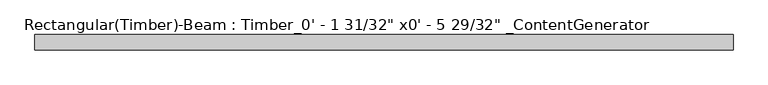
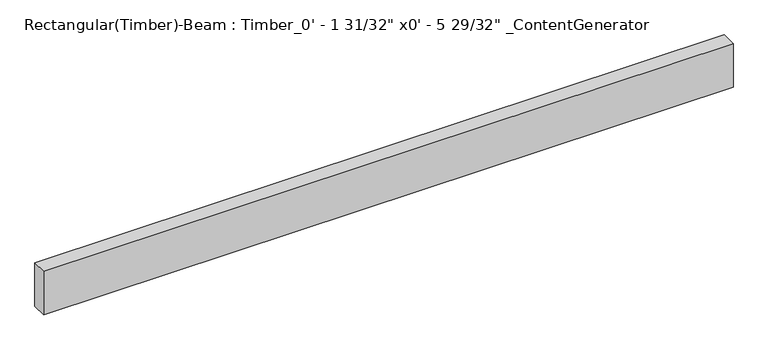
"""IFC4 building model written with IfcOpenShell, lengths in millimetres: beam geometry."""

from ifc_helpers import new_model, si_unit, frame, origin, place, context, project, spatial, polyline, outline, extrude, source, transform, mapped, element, save


def beam_f90036b5(model_context):
    return source(origin(), model_context, "Body", "SweptSolid", [
        extrude(outline(polyline([(1143.9504566, 25.4), (1143.9504566, -25.4), (-1143.9504566, -25.4), (-1143.9504566, 25.4), (1143.9504566, 25.4)])), frame((0.0, 0.0, -76.2), z_axis=(0.0, 0.0, 1.0), x_axis=(1.0, 0.0, 0.0)), (0.0, 0.0, 1.0), 152.4),
    ])


if __name__ == "__main__":
    model = new_model("IFC4")
    model_context = context("Model", 3, world=origin())
    ifc_project = project(units=[si_unit("LENGTHUNIT", "METRE", prefix="MILLI")], contexts=[model_context])
    site = spatial("IfcSite", under=ifc_project)
    building = spatial("IfcBuilding", under=site)
    placement = place(None, origin())
    beam_shape = beam_f90036b5(model_context)
    element("IfcBeam", 1, ObjectType="Rectangular(Timber)-Beam : Timber_0' - 1 31/32\" x0' - 5 29/32\" _ContentGenerator", at=placement, inside=building, context=model_context, shape_type="MappedRepresentation", body=[
        mapped(beam_shape, transform((0.0, 0.0, 0.0), x_axis=(1.0, 0.0, 0.0), y_axis=(0.0, 1.0, 0.0), z_axis=(0.0, 0.0, 1.0))),
    ])
    save(model, "model.ifc")
